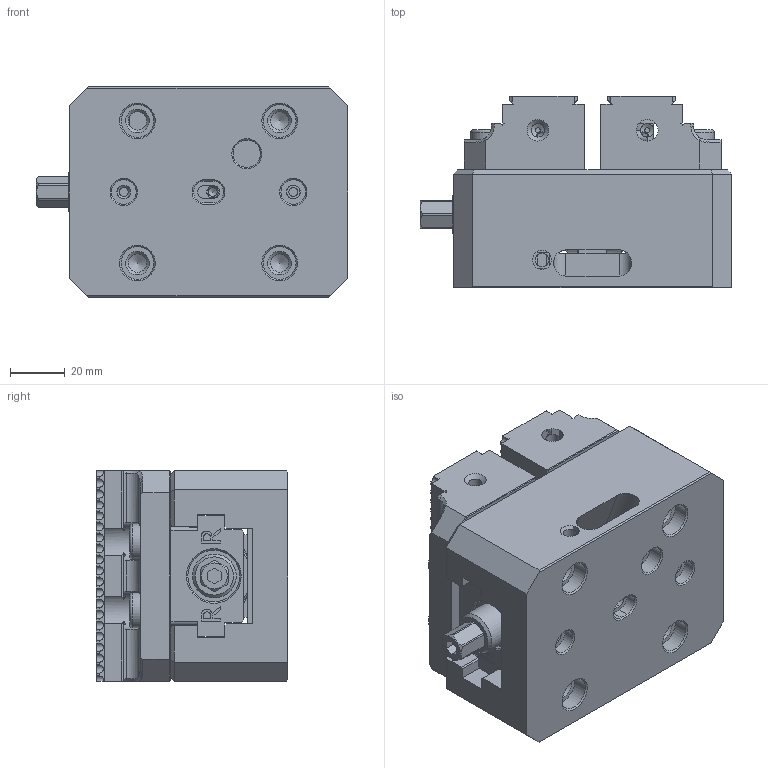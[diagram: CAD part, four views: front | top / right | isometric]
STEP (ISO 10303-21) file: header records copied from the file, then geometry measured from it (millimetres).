
FILE_DESCRIPTION(/* description */ (''),/* implementation_level */ '2;1');
FILE_NAME(/* name */ '',/* time_stamp */ '2026-03-26T21:59:05+08:00',/* author */ ('UserName'),/* organization */ (''),/* preprocessor_version */ 'ST-DEVELOPER v19.2',/* originating_system */ 'Autodesk Inventor 2024',/* authorisation */ '');
FILE_SCHEMA (('CONFIG_CONTROL_DESIGN'));
Length unit declared in the file: inch
Products named in the file (1): 零件34
Bounding box: 114.1 x 70 x 77 mm (x, y, z)
Volume: 415028.7 mm3; surface area: 96418.9 mm2
Topology: 13 solids, 27 shells, 1371 faces, 3719 edges, 2412 vertices
Faces by surface type: plane 758, cylinder 236, bspline 208, cone 121, sphere 24, torus 24
Full cylindrical faces by diameter (mm): 2 x12, 3.242 x3, 4.134 x2, 4.917 x10, 5 x2, 6.1 x4, 6.647 x12, 8 x8, 8.5 x8, 9 x2, 10 x1, 12 x4, 13 x9, 14 x9, 15 x1, 16 x7, 19 x2, 28 x5, 29 x1
Entity records: 46172 total; most frequent: CARTESIAN_POINT 11936, ORIENTED_EDGE 7398, DIRECTION 6231, EDGE_CURVE 3699, VERTEX_POINT 2436, LINE 2411, VECTOR 2411, AXIS2_PLACEMENT_3D 1910
